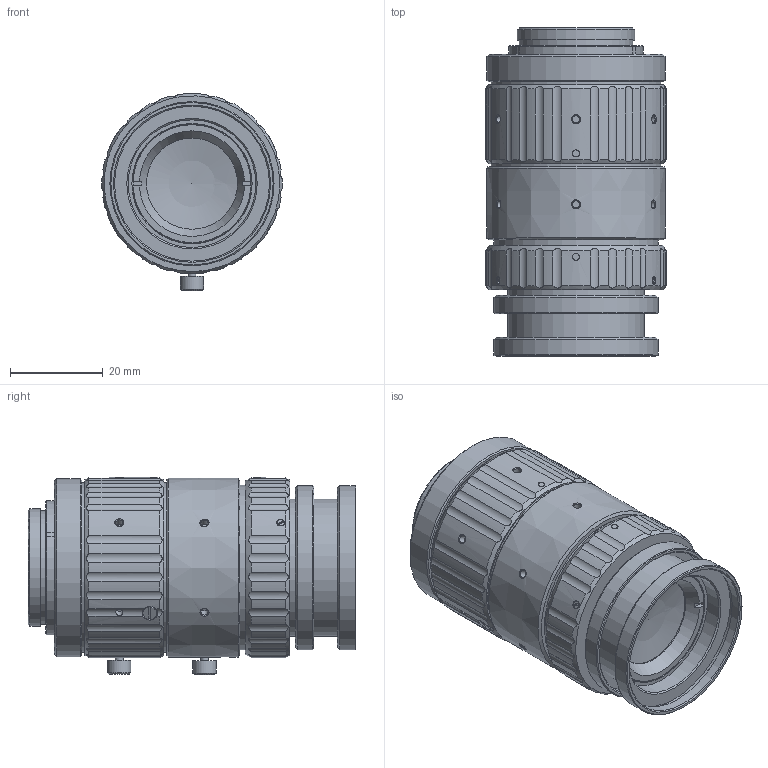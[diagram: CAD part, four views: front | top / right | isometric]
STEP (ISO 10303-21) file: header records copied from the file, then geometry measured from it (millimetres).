
FILE_DESCRIPTION(/* description */ ('Unknown'),/* implementation_level */ '2;1');
FILE_NAME(/* name */ 'F3526-MPT_210401',/* time_stamp */ '2021-04-01T10:16:40+09:00',/* author */ ('Unknown'),/* organization */ ('Unknown'),/* preprocessor_version */ 'ST-DEVELOPER v16.7',/* originating_system */ 'DEX',/* authorisation */ $);
FILE_SCHEMA (('AUTOMOTIVE_DESIGN {1 0 10303 214 3 1 1}'));
Length unit declared in the file: millimetre
Products named in the file (3): F3526-MPT_210401; F3526-MPT_Infinity; F3526-MPT_Mechanical limit
Assembly tree (2 placements, depth 2):
  F3526-MPT_210401
    F3526-MPT_Infinity
    F3526-MPT_Mechanical limit
Bounding box: 39 x 70.92 x 42.61 mm (x, y, z)
Surface area: 26887.9 mm2
Topology: 2 solids, 10 shells, 786 faces, 1994 edges, 1328 vertices
Faces by surface type: cylinder 378, plane 302, cone 92, torus 10, sphere 4
Full cylindrical faces by diameter (mm): 1.321 x6, 1.5 x4, 1.567 x20, 1.7 x10, 1.8 x6, 2 x2, 2.5 x8, 2.8 x2, 3 x8, 3.4 x2, 4.999 x4, 18.6 x2, 18.792 x2, 19.697 x2, 19.913 x2, 21.399 x2, 22.999 x2, 24.536 x2, 25.399 x2, 27.599 x2, 29.599 x2, 33.5 x2, 34 x2, 35.019 x2, 35.5 x2, 35.599 x2, 36.699 x4, 37.299 x4, 38.499 x2
Entity records: 28584 total; most frequent: CARTESIAN_POINT 5593, DIRECTION 3554, ORIENTED_EDGE 3356, EDGE_CURVE 1678, AXIS2_PLACEMENT_3D 1391, VERTEX_POINT 1218, EDGE_LOOP 1104, FACE_BOUND 1104
